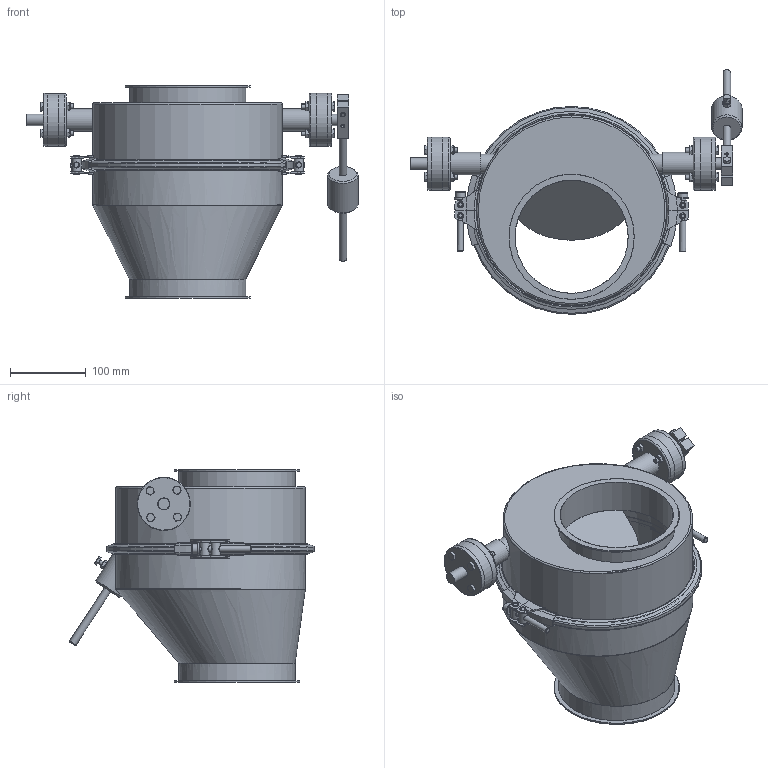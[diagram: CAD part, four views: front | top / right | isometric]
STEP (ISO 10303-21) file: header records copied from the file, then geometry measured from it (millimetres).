
FILE_DESCRIPTION((''),'2;1');
FILE_NAME('U:\Wolfgang\Marcel-3D\fertig\Kapitel 8\1521175.stp','2011-05-03T15:03:18',('TK1'),(''),'Autodesk Inventor 2010','Autodesk Inventor 2010','');
FILE_SCHEMA(('AUTOMOTIVE_DESIGN { 1 0 10303 214 1 1 1 1 }'));
Length unit declared in the file: millimetre
Products named in the file (20): 1521175; Hebel D15; WelleDN150; Wellenende D15; Buchse D15 70-50; lagerdeckel D15; PendelkugellagerD15; DIN EN ISO 4018 M6x40; DIN EN ISO 4018 M6x30; DIN 555 - ersetzt durch DIN EN 24034 M6; DIN 914 M5 x 6; DIN EN ISO 4018 M6x20; 2512056; 2522055-1; Verschluss b=274; Verschlussrolle; VerschlussrolleGewinde; ISO 4762 M8 x 70; ISO 7089 8 - 140 HV; 1511175-1
Assembly tree (44 placements, depth 3):
  1521175
    Hebel D15
    WelleDN150
    Wellenende D15  x2
      Buchse D15 70-50
      lagerdeckel D15
      PendelkugellagerD15
    DIN EN ISO 4018 M6x40  x8
    DIN EN ISO 4018 M6x30
    DIN 555 - ersetzt durch DIN EN 24034 M6  x9
    DIN 914 M5 x 6  x2
    DIN EN ISO 4018 M6x20
    2512056
      2522055-1  x2
      Verschluss b=274  x4
      Verschlussrolle  x2
      VerschlussrolleGewinde  x2
      ISO 4762 M8 x 70  x2
      ISO 7089 8 - 140 HV  x2
    1511175-1
Bounding box: 437.5 x 322.67 x 280 mm (x, y, z)
Volume: 583487.5 mm3; surface area: 1008898.5 mm2
Topology: 44 solids, 44 shells, 897 faces, 2128 edges, 1380 vertices
Faces by surface type: plane 347, cylinder 206, cone 184, bspline 137, torus 23
Full cylindrical faces by diameter (mm): 5 x10, 6 x12, 8 x10, 8.4 x2, 9 x1, 10 x2, 12 x4, 13 x2, 15 x5, 15.2 x4, 15.5 x2, 16 x4, 24 x2, 24.8 x4, 25 x4, 30 x2, 35 x2, 40 x1, 70 x6, 149 x2, 149.2 x1, 152.8 x3, 153 x3, 164.8 x2, 165 x2, 246 x1, 246.2 x1, 249.8 x2, 250 x2, 261.8 x1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
Entity records: 13064 total; most frequent: CARTESIAN_POINT 5205, DIRECTION 1556, ORIENTED_EDGE 1292, AXIS2_PLACEMENT_3D 671, EDGE_CURVE 646, EDGE_LOOP 566, VERTEX_POINT 488, FACE_OUTER_BOUND 355
